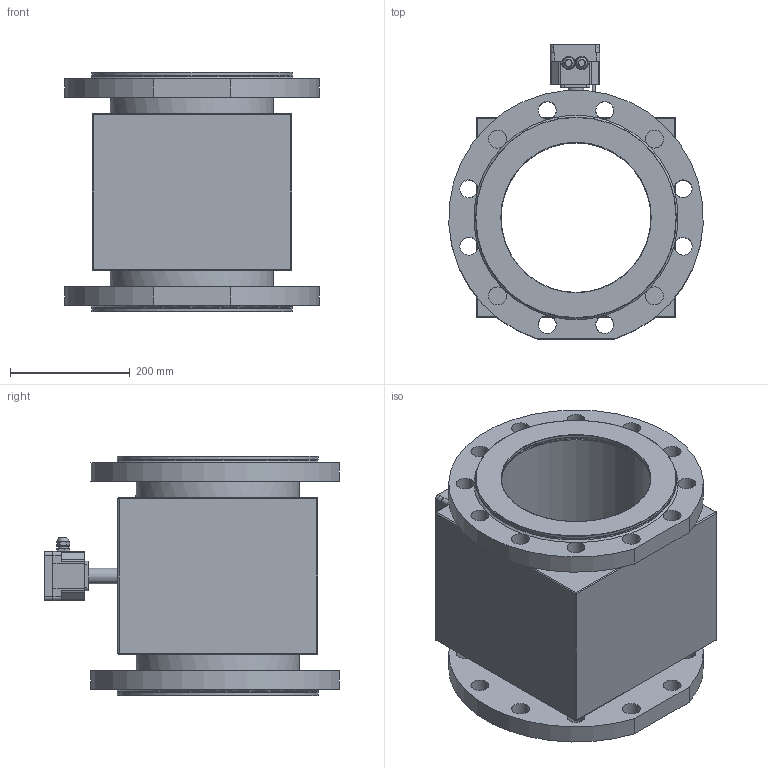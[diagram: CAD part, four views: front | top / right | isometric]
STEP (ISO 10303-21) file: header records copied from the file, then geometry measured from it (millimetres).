
FILE_DESCRIPTION(/* description */ (''),/* implementation_level */ '2;1');
FILE_NAME(/* name */ 'G:\ТЭК\01 Михайлычев\ПРЭМ\Модели для сайта\2,45 МПа\250F\ПРЭМ-250F.stp',/* time_stamp */ '2022-07-06T11:42:16+03:00',/* author */ ('d.mihailichev'),/* organization */ (''),/* preprocessor_version */ 'ST-DEVELOPER v18',/* originating_system */ 'Autodesk Inventor 2020',/* authorisation */ '');
FILE_SCHEMA (('AUTOMOTIVE_DESIGN { 1 0 10303 214 3 1 1 }'));
Products named in the file (1): ПРЭМ-250F
Bounding box: 424.22 x 491 x 400 mm (x, y, z)
Volume: 21465620.5 mm3; surface area: 1488032.3 mm2
Topology: 4 solids, 14 shells, 2309 faces, 6139 edges, 3938 vertices
Faces by surface type: plane 1380, bspline 449, cylinder 369, sphere 68, cone 25, torus 18
Full cylindrical faces by diameter (mm): 0.431 x1, 0.546 x1, 1.159 x2, 1.5 x2, 1.7 x4, 1.8 x8, 2.5 x4, 3 x1, 3.242 x8, 4 x4, 4.5 x4, 4.7 x4, 5 x1, 5.472 x1, 5.5 x7, 7 x4, 7.5 x4, 8.5 x4, 11 x8, 12 x2, 13 x2, 15 x1, 17 x7, 19.094 x2, 20.5 x1, 21 x1, 21.2 x1, 25 x1, 25.1 x1, 26 x1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
Entity records: 79634 total; most frequent: CARTESIAN_POINT 22784, ORIENTED_EDGE 12064, DIRECTION 9818, EDGE_CURVE 6036, LINE 4002, VECTOR 4002, VERTEX_POINT 3917, AXIS2_PLACEMENT_3D 2908
